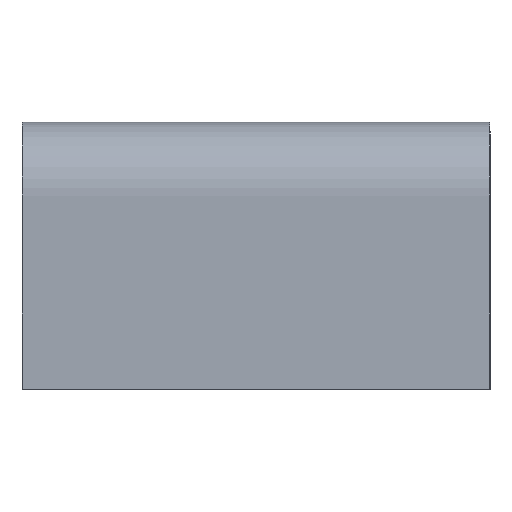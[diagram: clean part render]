
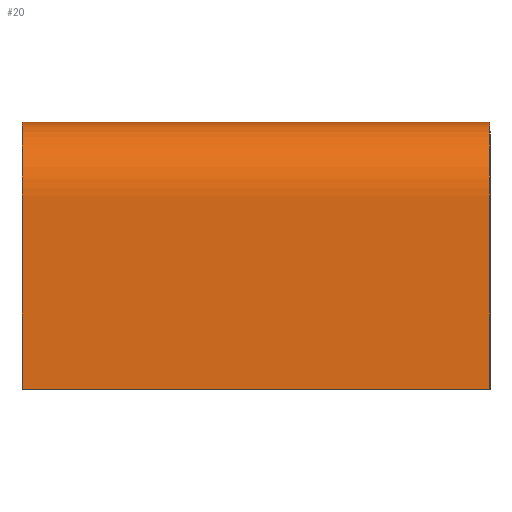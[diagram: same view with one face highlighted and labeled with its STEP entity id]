
A CAD part, left-side view. The second image highlights one B-rep face of the part: STEP entity #20.
In plain terms, the highlighted free-form (B-spline) face has degree [2, 1] with [11, 2] control points.
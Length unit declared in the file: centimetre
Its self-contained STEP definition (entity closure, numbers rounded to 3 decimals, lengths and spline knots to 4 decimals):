
#20=ADVANCED_FACE($,(#34),#169,.T.);
#34=FACE_OUTER_BOUND($,#48,.T.);
#48=EDGE_LOOP($,(#76,#77,#78,#79));
#76=ORIENTED_EDGE($,*,*,#131,.T.);
#77=ORIENTED_EDGE($,*,*,#127,.T.);
#78=ORIENTED_EDGE($,*,*,#130,.F.);
#79=ORIENTED_EDGE($,*,*,#123,.F.);
#123=EDGE_CURVE($,#152,#151,#203,.T.);
#127=EDGE_CURVE($,#156,#155,#205,.T.);
#130=EDGE_CURVE($,#151,#155,#188,.T.);
#131=EDGE_CURVE($,#152,#156,#189,.T.);
#151=VERTEX_POINT($,#439);
#152=VERTEX_POINT($,#440);
#155=VERTEX_POINT($,#443);
#156=VERTEX_POINT($,#444);
#169=(
BOUNDED_SURFACE()
B_SPLINE_SURFACE(2,1,((#403,#404),(#405,#406),(#407,#408),(#409,#410),(#411,
#412),(#413,#414),(#415,#416),(#417,#418),(#419,#420),(#421,#422),(#423,
#424)),.UNSPECIFIED.,.F.,.F.,.F.)
B_SPLINE_SURFACE_WITH_KNOTS((3,2,2,2,2,3),(2,2),(155.1929,183.9929,
201.5858,309.1858,326.7788,355.5788),(0.,
70.),.UNSPECIFIED.)
GEOMETRIC_REPRESENTATION_ITEM()
RATIONAL_B_SPLINE_SURFACE(((1.,1.),(1.,1.),(1.,1.),(0.707,0.707),
(1.,1.),(1.,1.),(1.,1.),(0.707,0.707),(1.,1.),(1.,
1.),(1.,1.)))
REPRESENTATION_ITEM($)
SURFACE()
);
#188=B_SPLINE_CURVE_WITH_KNOTS($,1,(#380,#381),.UNSPECIFIED.,.F.,.F.,(2,
2),(0.,70.),.UNSPECIFIED.);
#189=B_SPLINE_CURVE_WITH_KNOTS($,1,(#382,#383),.UNSPECIFIED.,.F.,.F.,(2,
2),(0.,70.),.UNSPECIFIED.);
#203=(
BOUNDED_CURVE()
B_SPLINE_CURVE(2,(#343,#344,#345,#346,#347,#348,#349,#350,#351,#352,#353),
.UNSPECIFIED.,.F.,.F.)
B_SPLINE_CURVE_WITH_KNOTS((3,2,2,2,2,3),(-355.5788,-326.7788,
-309.1858,-201.5858,-183.9929,-155.1929),
.UNSPECIFIED.)
CURVE()
GEOMETRIC_REPRESENTATION_ITEM()
RATIONAL_B_SPLINE_CURVE((1.,1.,1.,0.707,1.,1.,1.,0.707,
1.,1.,1.))
REPRESENTATION_ITEM($)
);
#205=(
BOUNDED_CURVE()
B_SPLINE_CURVE(2,(#365,#366,#367,#368,#369,#370,#371,#372,#373,#374,#375),
.UNSPECIFIED.,.F.,.F.)
B_SPLINE_CURVE_WITH_KNOTS((3,2,2,2,2,3),(-355.5788,-326.7788,
-309.1858,-201.5858,-183.9929,-155.1929),
.UNSPECIFIED.)
CURVE()
GEOMETRIC_REPRESENTATION_ITEM()
RATIONAL_B_SPLINE_CURVE((1.,1.,1.,0.707,1.,1.,1.,0.707,
1.,1.,1.))
REPRESENTATION_ITEM($)
);
#343=CARTESIAN_POINT($,(130.,0.,0.));
#344=CARTESIAN_POINT($,(130.,0.,14.4));
#345=CARTESIAN_POINT($,(130.,0.,28.8));
#346=CARTESIAN_POINT($,(130.,0.,40.));
#347=CARTESIAN_POINT($,(118.8,0.,40.));
#348=CARTESIAN_POINT($,(65.,0.,40.));
#349=CARTESIAN_POINT($,(11.2,0.,40.));
#350=CARTESIAN_POINT($,(0.,0.,40.));
#351=CARTESIAN_POINT($,(0.,0.,28.8));
#352=CARTESIAN_POINT($,(0.,0.,14.4));
#353=CARTESIAN_POINT($,(0.,0.,0.));
#365=CARTESIAN_POINT($,(130.,70.,0.));
#366=CARTESIAN_POINT($,(130.,70.,14.4));
#367=CARTESIAN_POINT($,(130.,70.,28.8));
#368=CARTESIAN_POINT($,(130.,70.,40.));
#369=CARTESIAN_POINT($,(118.8,70.,40.));
#370=CARTESIAN_POINT($,(65.,70.,40.));
#371=CARTESIAN_POINT($,(11.2,70.,40.));
#372=CARTESIAN_POINT($,(0.,70.,40.));
#373=CARTESIAN_POINT($,(0.,70.,28.8));
#374=CARTESIAN_POINT($,(0.,70.,14.4));
#375=CARTESIAN_POINT($,(0.,70.,0.));
#380=CARTESIAN_POINT($,(0.,0.,0.));
#381=CARTESIAN_POINT($,(0.,70.,0.));
#382=CARTESIAN_POINT($,(130.,0.,0.));
#383=CARTESIAN_POINT($,(130.,70.,0.));
#403=CARTESIAN_POINT($,(0.,0.,0.));
#404=CARTESIAN_POINT($,(0.,70.,0.));
#405=CARTESIAN_POINT($,(0.,0.,14.4));
#406=CARTESIAN_POINT($,(0.,70.,14.4));
#407=CARTESIAN_POINT($,(0.,0.,28.8));
#408=CARTESIAN_POINT($,(0.,70.,28.8));
#409=CARTESIAN_POINT($,(0.,0.,40.));
#410=CARTESIAN_POINT($,(0.,70.,40.));
#411=CARTESIAN_POINT($,(11.2,0.,40.));
#412=CARTESIAN_POINT($,(11.2,70.,40.));
#413=CARTESIAN_POINT($,(65.,0.,40.));
#414=CARTESIAN_POINT($,(65.,70.,40.));
#415=CARTESIAN_POINT($,(118.8,0.,40.));
#416=CARTESIAN_POINT($,(118.8,70.,40.));
#417=CARTESIAN_POINT($,(130.,0.,40.));
#418=CARTESIAN_POINT($,(130.,70.,40.));
#419=CARTESIAN_POINT($,(130.,0.,28.8));
#420=CARTESIAN_POINT($,(130.,70.,28.8));
#421=CARTESIAN_POINT($,(130.,0.,14.4));
#422=CARTESIAN_POINT($,(130.,70.,14.4));
#423=CARTESIAN_POINT($,(130.,0.,0.));
#424=CARTESIAN_POINT($,(130.,70.,0.));
#439=CARTESIAN_POINT($,(0.,0.,0.));
#440=CARTESIAN_POINT($,(130.,0.,0.));
#443=CARTESIAN_POINT($,(0.,70.,0.));
#444=CARTESIAN_POINT($,(130.,70.,0.));
